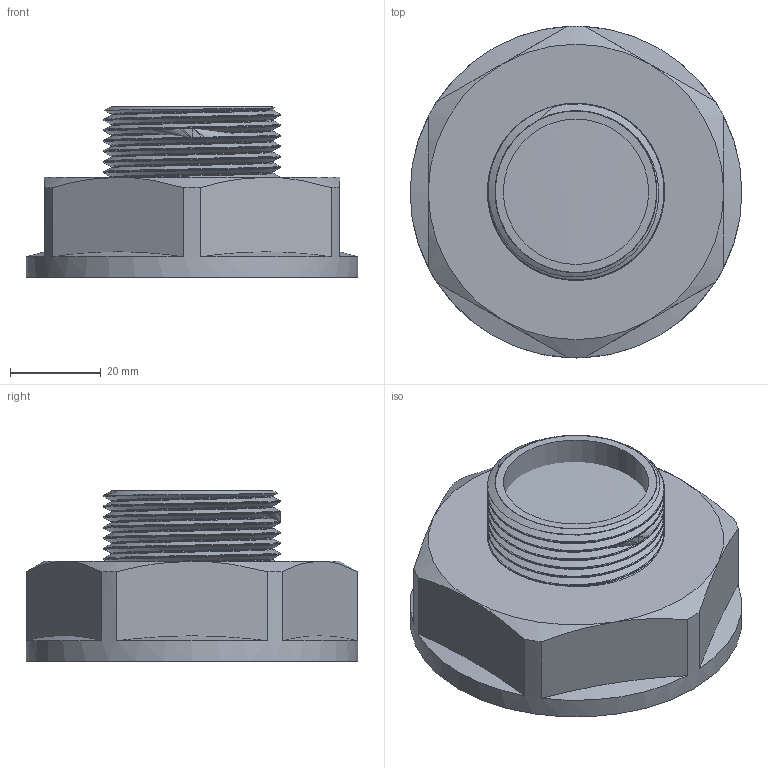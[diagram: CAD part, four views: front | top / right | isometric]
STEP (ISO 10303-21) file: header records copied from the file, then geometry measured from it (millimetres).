
FILE_DESCRIPTION(/* description */ (''),/* implementation_level */ '2;1');
FILE_NAME(/* name */ 'C:\Users\Doom\Desktop\Фадотех\Резьба\P11 18.03.2020\P11 18.03.2020.stp',/* time_stamp */ '2022-01-12T23:30:43+02:00',/* author */ ('Doom'),/* organization */ (''),/* preprocessor_version */ 'ST-DEVELOPER v18',/* originating_system */ 'Autodesk Inventor 2020',/* authorisation */ '');
FILE_SCHEMA (('AUTOMOTIVE_DESIGN { 1 0 10303 214 3 1 1 }'));
Length unit declared in the file: millimetre
Products named in the file (1): P11 18.03.2020
Bounding box: 73 x 73 x 37.5 mm (x, y, z)
Volume: 38122.2 mm3; surface area: 33514.4 mm2
Topology: 3 solids, 3 shells, 63 faces, 178 edges, 121 vertices
Faces by surface type: cylinder 22, cone 15, plane 14, bspline 12
Full cylindrical faces by diameter (mm): 32 x1, 35.526 x2, 38.95 x6, 56.176 x6, 59.6 x2, 73 x1
Entity records: 10603 total; most frequent: CARTESIAN_POINT 9124, ORIENTED_EDGE 348, DIRECTION 235, EDGE_CURVE 174, VERTEX_POINT 119, AXIS2_PLACEMENT_3D 101, EDGE_LOOP 71, B_SPLINE_CURVE_WITH_KNOTS 68
